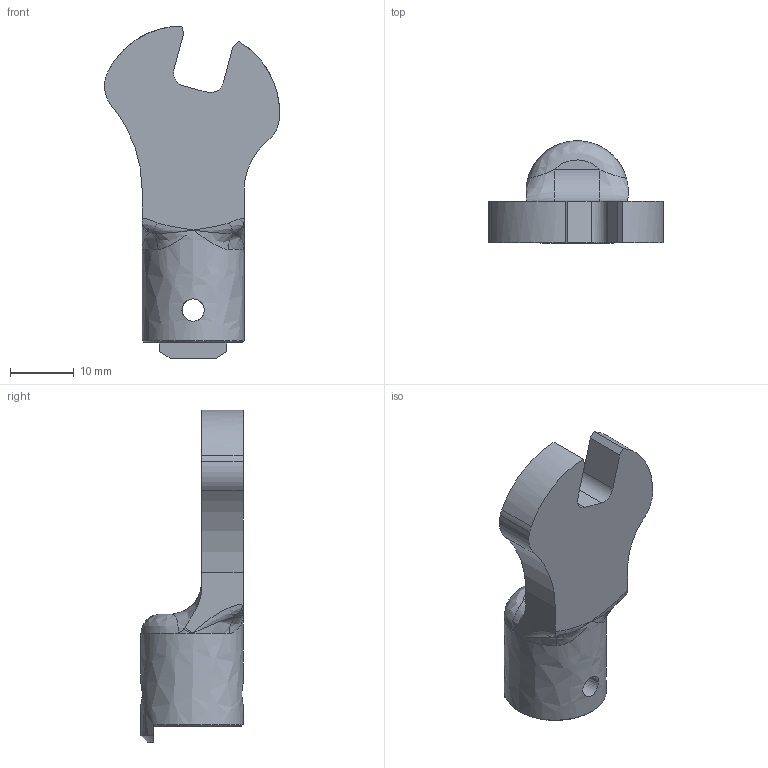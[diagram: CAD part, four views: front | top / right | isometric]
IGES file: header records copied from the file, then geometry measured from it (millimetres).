
Global section: file name: SH10DX8; native system: Autodesk Inventor 2016; preprocessor: unknown; author: Q600; date: 20151029.185743; units: millimetre
Bounding box: 27.38 x 16 x 51.94 mm (x, y, z)
Volume: 6168.3 mm3; surface area: 3593.7 mm2
Topology: 1 solids, 1 shells, 49 faces, 146 edges, 93 vertices
Faces by surface type: bspline 49
